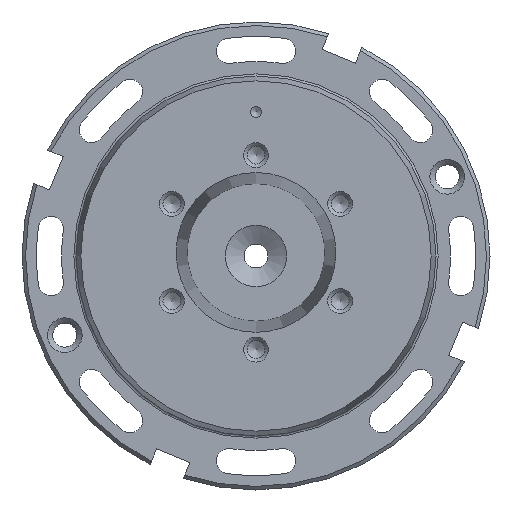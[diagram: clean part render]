
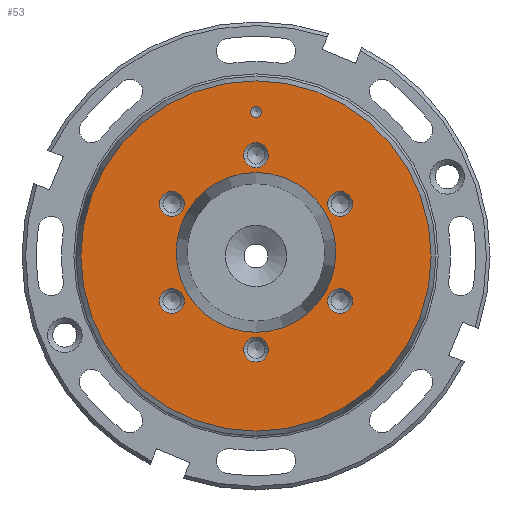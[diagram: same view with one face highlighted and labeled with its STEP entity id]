
A CAD part, front view. The second image highlights one B-rep face of the part: STEP entity #53.
In plain terms, the highlighted planar face has unit normal (0, -1, 0).
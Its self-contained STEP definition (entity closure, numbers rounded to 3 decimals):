
#53=ADVANCED_FACE('',(#1007,#1009,#1011,#1013,#1015,#1017,#1019,#1021,#1023),#1025,
.T.);
#1007=FACE_BOUND('',#1008,.T.);
#1008=EDGE_LOOP('',(#1889));
#1009=FACE_BOUND('',#1010,.T.);
#1010=EDGE_LOOP('',(#1890));
#1011=FACE_BOUND('',#1012,.T.);
#1012=EDGE_LOOP('',(#1891));
#1013=FACE_BOUND('',#1014,.T.);
#1014=EDGE_LOOP('',(#1892));
#1015=FACE_BOUND('',#1016,.T.);
#1016=EDGE_LOOP('',(#1893));
#1017=FACE_BOUND('',#1018,.T.);
#1018=EDGE_LOOP('',(#1894));
#1019=FACE_BOUND('',#1020,.T.);
#1020=EDGE_LOOP('',(#1895));
#1021=FACE_BOUND('',#1022,.T.);
#1022=EDGE_LOOP('',(#1896));
#1023=FACE_BOUND('',#1024,.T.);
#1024=EDGE_LOOP('',(#1897));
#1025=PLANE('',#1026);
#1026=AXIS2_PLACEMENT_3D('',#1027,#1028,#1029);
#1027=CARTESIAN_POINT('',(0.,0.,0.));
#1028=DIRECTION('',(0.,-1.,0.));
#1029=DIRECTION('',(0.,0.,1.));
#1889=ORIENTED_EDGE('',*,*,#2329,.F.);
#1890=ORIENTED_EDGE('',*,*,#2330,.T.);
#1891=ORIENTED_EDGE('',*,*,#2331,.T.);
#1892=ORIENTED_EDGE('',*,*,#2332,.T.);
#1893=ORIENTED_EDGE('',*,*,#2333,.T.);
#1894=ORIENTED_EDGE('',*,*,#2334,.T.);
#1895=ORIENTED_EDGE('',*,*,#2335,.T.);
#1896=ORIENTED_EDGE('',*,*,#2336,.T.);
#1897=ORIENTED_EDGE('',*,*,#2337,.T.);
#2329=EDGE_CURVE('',#2549,#2549,#2550,.T.);
#2330=EDGE_CURVE('',#2551,#2551,#2552,.F.);
#2331=EDGE_CURVE('',#2553,#2553,#2554,.F.);
#2332=EDGE_CURVE('',#2555,#2555,#2556,.T.);
#2333=EDGE_CURVE('',#2557,#2557,#2558,.F.);
#2334=EDGE_CURVE('',#2559,#2559,#2560,.F.);
#2335=EDGE_CURVE('',#2561,#2561,#2562,.F.);
#2336=EDGE_CURVE('',#2563,#2563,#2564,.F.);
#2337=EDGE_CURVE('',#2565,#2565,#2566,.F.);
#2549=VERTEX_POINT('',#2933);
#2550=CIRCLE('',#2934,48.66);
#2551=VERTEX_POINT('',#2938);
#2552=CIRCLE('',#2939,1.5);
#2553=VERTEX_POINT('',#2943);
#2554=CIRCLE('',#2944,3.459);
#2555=VERTEX_POINT('',#2948);
#2556=CIRCLE('',#2949,22.2);
#2557=VERTEX_POINT('',#2953);
#2558=CIRCLE('',#2954,3.459);
#2559=VERTEX_POINT('',#2958);
#2560=CIRCLE('',#2959,3.459);
#2561=VERTEX_POINT('',#2963);
#2562=CIRCLE('',#2964,3.459);
#2563=VERTEX_POINT('',#2968);
#2564=CIRCLE('',#2969,3.459);
#2565=VERTEX_POINT('',#2973);
#2566=CIRCLE('',#2974,3.459);
#2933=CARTESIAN_POINT('',(0.,0.,48.66));
#2934=AXIS2_PLACEMENT_3D('',#2935,#2936,#2937);
#2935=CARTESIAN_POINT('',(0.,0.,0.));
#2936=DIRECTION('',(0.,1.,0.));
#2937=DIRECTION('',(0.,0.,1.));
#2938=CARTESIAN_POINT('',(1.5,0.,40.));
#2939=AXIS2_PLACEMENT_3D('',#2940,#2941,#2942);
#2940=CARTESIAN_POINT('',(0.,0.,40.));
#2941=DIRECTION('',(0.,-1.,0.));
#2942=DIRECTION('',(1.,0.,0.));
#2943=CARTESIAN_POINT('',(3.459,0.,28.));
#2944=AXIS2_PLACEMENT_3D('',#2945,#2946,#2947);
#2945=CARTESIAN_POINT('',(0.,0.,28.));
#2946=DIRECTION('',(0.,-1.,0.));
#2947=DIRECTION('',(1.,0.,0.));
#2948=CARTESIAN_POINT('',(0.,0.,23.2));
#2949=AXIS2_PLACEMENT_3D('',#2950,#2951,#2952);
#2950=CARTESIAN_POINT('',(0.,0.,1.));
#2951=DIRECTION('',(0.,1.,0.));
#2952=DIRECTION('',(0.,0.,1.));
#2953=CARTESIAN_POINT('',(-21.653,0.,17.495));
#2954=AXIS2_PLACEMENT_3D('',#2955,#2956,#2957);
#2955=CARTESIAN_POINT('',(-23.383,0.,14.5));
#2956=DIRECTION('',(0.,-1.,0.));
#2957=DIRECTION('',(0.5,0.,0.866));
#2958=CARTESIAN_POINT('',(-25.112,0.,-9.505));
#2959=AXIS2_PLACEMENT_3D('',#2960,#2961,#2962);
#2960=CARTESIAN_POINT('',(-23.383,0.,-12.5));
#2961=DIRECTION('',(0.,-1.,0.));
#2962=DIRECTION('',(-0.5,0.,0.866));
#2963=CARTESIAN_POINT('',(-3.459,0.,-26.));
#2964=AXIS2_PLACEMENT_3D('',#2965,#2966,#2967);
#2965=CARTESIAN_POINT('',(0.,0.,-26.));
#2966=DIRECTION('',(0.,-1.,0.));
#2967=DIRECTION('',(-1.,0.,0.));
#2968=CARTESIAN_POINT('',(21.653,0.,-15.495));
#2969=AXIS2_PLACEMENT_3D('',#2970,#2971,#2972);
#2970=CARTESIAN_POINT('',(23.383,0.,-12.5));
#2971=DIRECTION('',(0.,-1.,0.));
#2972=DIRECTION('',(-0.5,0.,-0.866));
#2973=CARTESIAN_POINT('',(25.112,0.,11.505));
#2974=AXIS2_PLACEMENT_3D('',#2975,#2976,#2977);
#2975=CARTESIAN_POINT('',(23.383,0.,14.5));
#2976=DIRECTION('',(0.,-1.,0.));
#2977=DIRECTION('',(0.5,0.,-0.866));
